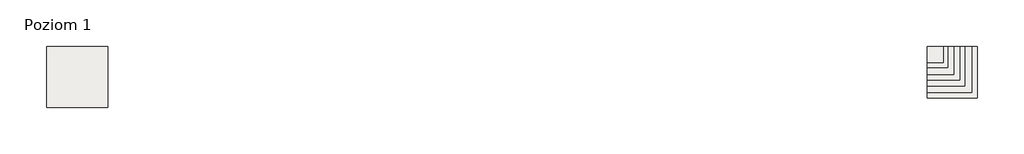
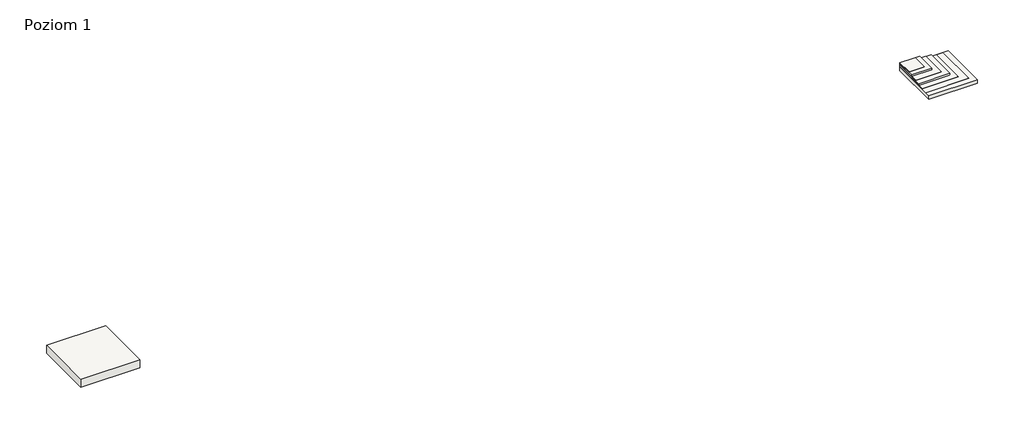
# One storey: 2 roofs.
"""IFC4 building model written with IfcOpenShell, lengths in millimetres."""

from ifc_helpers import new_model, si_unit, frame, origin, origin_with_axes, place, context, project, spatial, polyline, outline, extrude, element, save

model = new_model("IFC4")

# Units and contexts
model_context = context("Model", 3, world=origin())
ifc_project = project(units=[si_unit("LENGTHUNIT", "METRE", prefix="MILLI")], contexts=[model_context])

# Site, building, storey
site = spatial("IfcSite", under=ifc_project)
building = spatial("IfcBuilding", under=site)
storey = spatial("IfcBuildingStorey", under=building, Name="Poziom 1", Elevation=0.0)

# Roofs
placement = place(None, origin())
element("IfcRoof", 1, ObjectType="Dachy zielone w uprawie ekstensywnej – Atus CRICKET 20/1000 + 100 - układ odwrócony", at=placement, inside=storey, context=model_context, shape_type="SweptSolid", body=[
    extrude(outline(polyline([(25205.1555546, -525.5470033), (28205.1555546, -525.5470033), (28205.1555546, -3525.5470033), (25205.1555546, -3525.5470033), (25205.1555546, -525.5470033)])), origin_with_axes(), (0.0, 0.0, 1.0), 429.0),
])
element("IfcRoof", 2, ObjectType="Dachy zielone w uprawie ekstensywnej – Atus CRICKET 20/1000 + 100 - układ odwrócony", at=placement, inside=storey, context=model_context, shape_type="SweptSolid", body=[
    extrude(outline(polyline([(68505.1555546, -525.5470033), (69274.6514475, -525.5470033), (69274.6514475, -1325.5470033), (68505.1555546, -1325.5470033), (68505.1555546, -525.5470033)])), frame((0.0, 0.0, 404.0), z_axis=(0.0, 0.0, 1.0), x_axis=(1.0, 0.0, 0.0)), (0.0, 0.0, 1.0), 25.0),
    extrude(outline(polyline([(68505.1555546, -525.5470033), (69513.3580355, -525.5470033), (69513.3580355, -1575.8862993), (68505.1555546, -1575.8862993), (68505.1555546, -525.5470033)])), frame((0.0, 0.0, 324.0), z_axis=(0.0, 0.0, 1.0), x_axis=(1.0, 0.0, 0.0)), (0.0, 0.0, 1.0), 80.0),
    extrude(outline(polyline([(68505.1555546, -525.5470033), (69805.1555546, -525.5470033), (69805.1555546, -1905.5470033), (68505.1555546, -1905.5470033), (68505.1555546, -525.5470033)])), frame((0.0, 0.0, 304.0), z_axis=(0.0, 0.0, 1.0), x_axis=(1.0, 0.0, 0.0)), (0.0, 0.0, 1.0), 20.0),
    extrude(outline(polyline([(68505.1555546, -525.5470033), (70344.2074193, -525.5470033), (70344.2074193, -2485.4549433), (68505.1555546, -2485.4549433), (68505.1555546, -525.5470033)])), frame((0.0, 0.0, 202.0), z_axis=(0.0, 0.0, 1.0), x_axis=(1.0, 0.0, 0.0)), (0.0, 0.0, 1.0), 2.0),
    extrude(outline(polyline([(68505.1555546, -525.5470033), (70676.1542991, -525.5470033), (70676.1542991, -2801.1513671), (68505.1555546, -2801.1513671), (68505.1555546, -525.5470033)])), frame((0.0, 0.0, 200.0), z_axis=(0.0, 0.0, 1.0), x_axis=(1.0, 0.0, 0.0)), (0.0, 0.0, 1.0), 2.0),
    extrude(outline(polyline([(68505.1555546, -525.5470033), (70966.4963765, -525.5470033), (70966.4963765, -3077.5062833), (68505.1555546, -3077.5062833), (68505.1555546, -525.5470033)])), origin_with_axes(), (0.0, 0.0, 1.0), 200.0),
    extrude(outline(polyline([(68505.1555546, -525.5470033), (70085.1555546, -525.5470033), (70085.1555546, -2180.9714487), (68505.1555546, -2180.9714487), (68505.1555546, -525.5470033)])), frame((0.0, 0.0, 204.0), z_axis=(0.0, 0.0, 1.0), x_axis=(1.0, 0.0, 0.0)), (0.0, 0.0, 1.0), 100.0),
])

save(model, "model.ifc")
